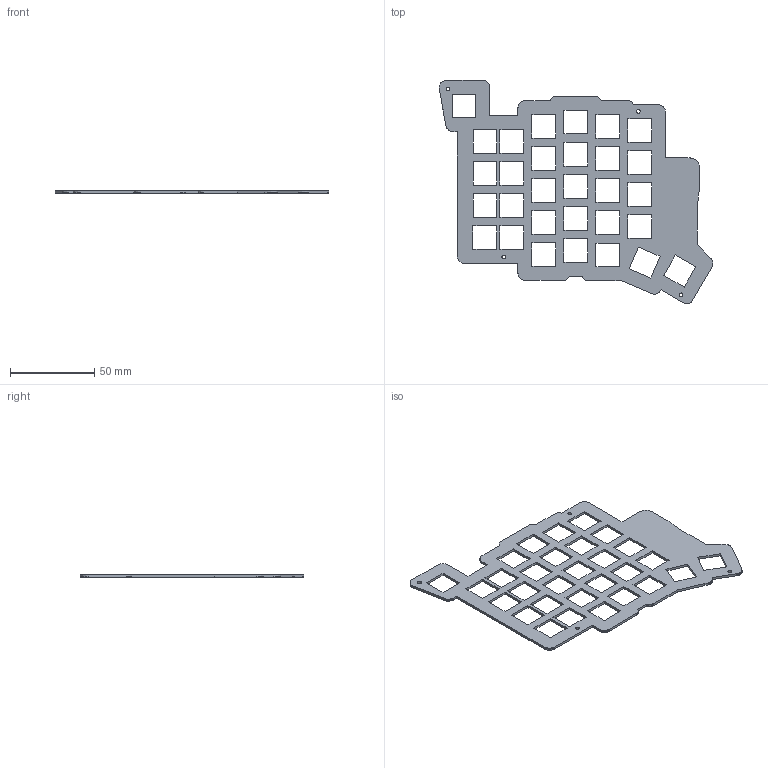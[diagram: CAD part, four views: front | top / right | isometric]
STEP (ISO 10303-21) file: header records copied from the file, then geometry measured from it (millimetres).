
FILE_DESCRIPTION(('Open CASCADE Model'),'2;1');
FILE_NAME('Open CASCADE Shape Model','1979-01-01T00:00:00',('Author'),( 'Open CASCADE'),'Open CASCADE STEP processor 8.0','Open CASCADE 8.0' ,'Unknown');
FILE_SCHEMA(('AUTOMOTIVE_DESIGN { 1 0 10303 214 1 1 1 1 }'));
Length unit declared in the file: millimetre
Products named in the file (1): Open CASCADE STEP translator 8.0 2
Bounding box: 162.51 x 132.49 x 1.5 mm (x, y, z)
Volume: 13710.7 mm3; surface area: 21696.8 mm2
Topology: 1 solids, 1 shells, 333 faces, 993 edges, 662 vertices
Faces by surface type: plane 329, cylinder 4
Full cylindrical faces by diameter (mm): 2.2 x4
Entity records: 24010 total; most frequent: CARTESIAN_POINT 3975, DIRECTION 3655, LINE 2963, VECTOR 2963, ORIENTED_EDGE 1986, PCURVE 1986, DEFINITIONAL_REPRESENTATION 1986, EDGE_CURVE 993
